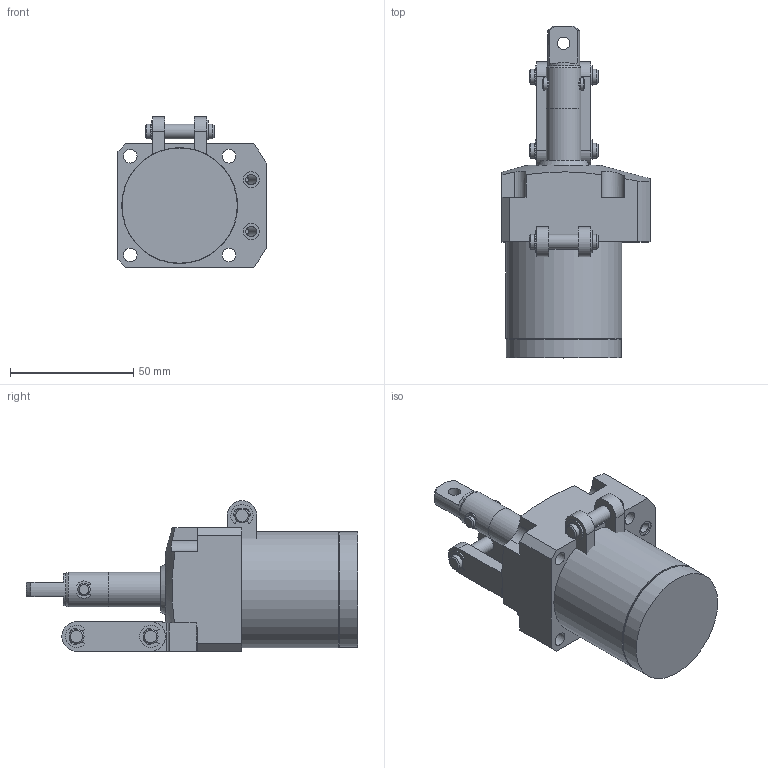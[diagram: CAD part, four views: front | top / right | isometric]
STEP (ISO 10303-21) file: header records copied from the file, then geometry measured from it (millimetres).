
FILE_DESCRIPTION( ( '' ), '1' );
FILE_NAME( 'W:/Catalogue/JL5H/JL5H28-22GR/JL5H28-22GR.stp', '2008-05-26T01:13:19', ( '機械事業部産業機器グループ' ), ( '豊和工業株式会社' ), 'XStep 1.0', ' ', ' ' );
FILE_SCHEMA( ( 'CONFIG_CONTROL_DESIGN' ) );
Length unit declared in the file: millimetre
Products named in the file (6): Assem1; 1; 2; 3; 4; 5
Bounding box: 60 x 134.5 x 61 mm (x, y, z)
Volume: 317175.8 mm3; surface area: 77069.3 mm2
Topology: 11 solids, 15 shells, 576 faces, 1493 edges, 977 vertices
Faces by surface type: plane 310, cylinder 218, cone 46, torus 2
Full cylindrical faces by diameter (mm): 2 x2, 3 x4, 4 x12, 4.5 x2, 5 x8, 5.5 x8, 6 x14, 6.5 x4, 8.3 x4, 13 x2, 14 x4, 16 x2, 20 x2, 24 x4, 28 x4, 46 x2, 46.7 x2, 47 x2
Entity records: 8662 total; most frequent: CARTESIAN_POINT 1643, DIRECTION 1482, ORIENTED_EDGE 1280, EDGE_CURVE 640, AXIS2_PLACEMENT_3D 577, VERTEX_POINT 454, EDGE_LOOP 384, LINE 328
